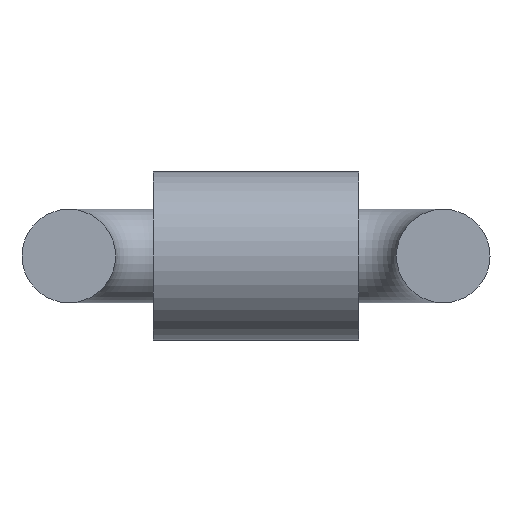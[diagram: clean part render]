
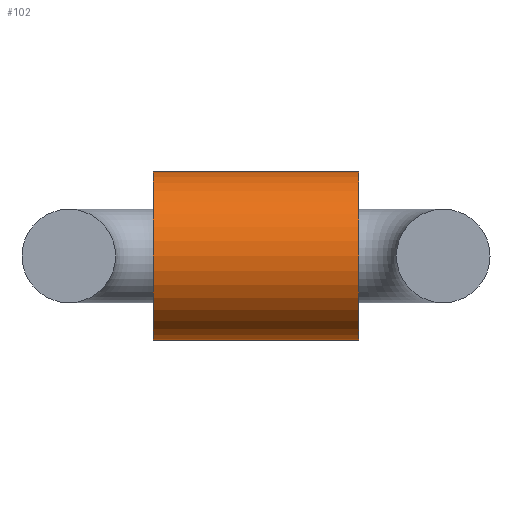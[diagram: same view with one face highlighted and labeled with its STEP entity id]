
A CAD part, front view. The second image highlights one B-rep face of the part: STEP entity #102.
In plain terms, the highlighted cylindrical face has radius 0.572 mm (diameter 1.143 mm), a full revolution.
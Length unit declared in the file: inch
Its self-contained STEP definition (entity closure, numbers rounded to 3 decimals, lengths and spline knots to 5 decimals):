
#22=CYLINDRICAL_SURFACE('',#126,0.0225);
#27=ORIENTED_EDGE('',*,*,#43,.F.);
#28=ORIENTED_EDGE('',*,*,#41,.T.);
#41=EDGE_CURVE('',#49,#49,#57,.T.);
#43=EDGE_CURVE('',#51,#51,#59,.T.);
#49=VERTEX_POINT('',#179);
#51=VERTEX_POINT('',#184);
#57=CIRCLE('',#124,0.0225);
#59=CIRCLE('',#127,0.0225);
#67=EDGE_LOOP('',(#27));
#68=EDGE_LOOP('',(#28));
#83=FACE_BOUND('',#67,.T.);
#84=FACE_BOUND('',#68,.T.);
#102=ADVANCED_FACE('',(#83,#84),#22,.T.);
#124=AXIS2_PLACEMENT_3D('',#178,#144,#145);
#126=AXIS2_PLACEMENT_3D('',#182,#148,#149);
#127=AXIS2_PLACEMENT_3D('',#183,#150,#151);
#144=DIRECTION('',(-1.,0.,0.));
#145=DIRECTION('',(0.,0.,1.));
#148=DIRECTION('',(-1.,0.,0.));
#149=DIRECTION('',(0.,0.,1.));
#150=DIRECTION('',(-1.,0.,0.));
#151=DIRECTION('',(0.,0.,1.));
#178=CARTESIAN_POINT('',(0.0275,0.125,0.));
#179=CARTESIAN_POINT('',(0.0275,0.125,0.0225));
#182=CARTESIAN_POINT('',(-0.0275,0.125,0.));
#183=CARTESIAN_POINT('',(-0.0275,0.125,0.));
#184=CARTESIAN_POINT('',(-0.0275,0.125,0.0225));
